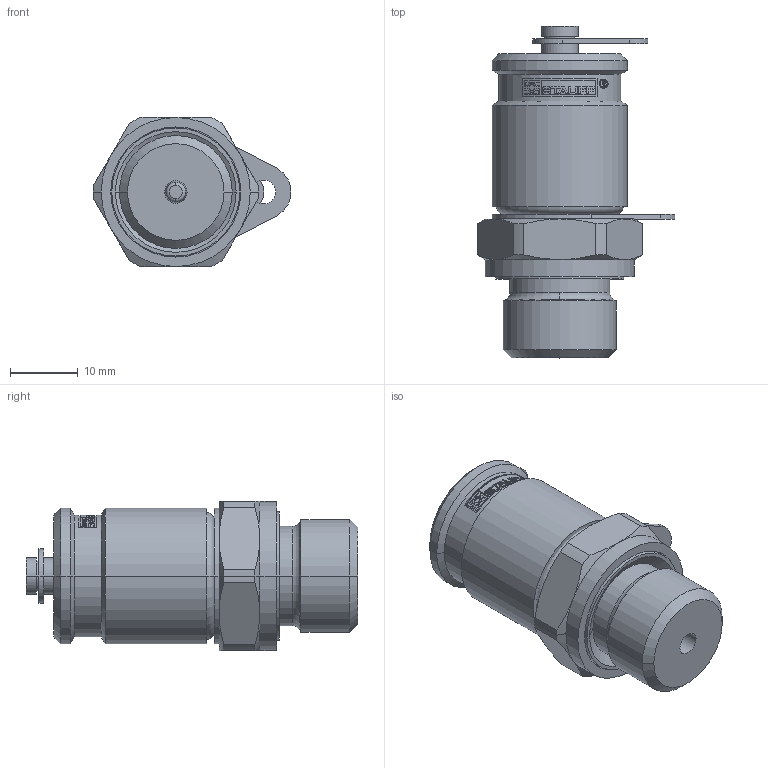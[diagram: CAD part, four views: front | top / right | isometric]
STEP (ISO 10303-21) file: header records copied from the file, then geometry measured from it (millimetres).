
FILE_DESCRIPTION(('STEP AP214'),'1');
FILE_NAME('smk20-g3_8-pc.stp','2026-04-13T11:47:19',('TraceParts'),('TraceParts S.A.S.'),'Spatial InterOp 3D',' ',' ');
FILE_SCHEMA(('AUTOMOTIVE_DESIGN { 1 0 10303 214 1 1 1 1 }'));
Length unit declared in the file: millimetre
Products named in the file (1): 1
Bounding box: 29.21 x 49 x 22 mm (x, y, z)
Volume: 12825.6 mm3; surface area: 7744.4 mm2
Topology: 6 solids, 6 shells, 304 faces, 758 edges, 489 vertices
Faces by surface type: cylinder 132, plane 126, cone 38, torus 8
Entity records: 10080 total; most frequent: CARTESIAN_POINT 2777, DIRECTION 1543, ORIENTED_EDGE 1516, EDGE_CURVE 758, AXIS2_PLACEMENT_3D 609, VERTEX_POINT 489, EDGE_LOOP 341, LINE 325
